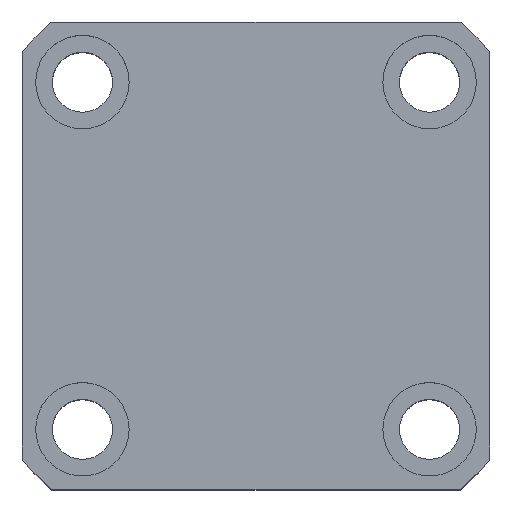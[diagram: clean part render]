
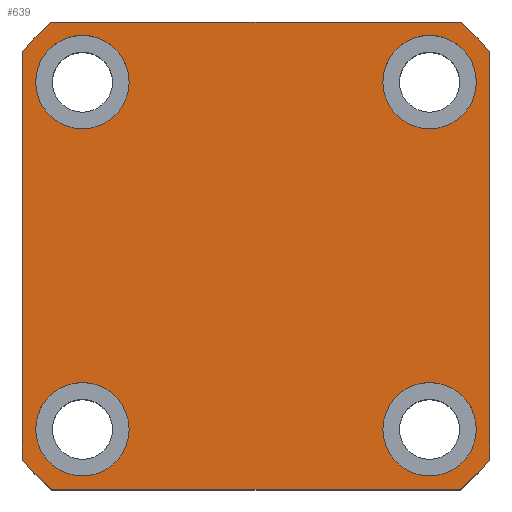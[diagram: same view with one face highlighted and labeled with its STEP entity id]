
A CAD part, top view. The second image highlights one B-rep face of the part: STEP entity #639.
In plain terms, the highlighted planar face has unit normal (0, 0, 1).
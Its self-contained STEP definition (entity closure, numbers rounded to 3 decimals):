
#57 = AXIS2_PLACEMENT_3D ( 'NONE', #3721, #6019, #6193 ) ;
#191 = AXIS2_PLACEMENT_3D ( 'NONE', #7617, #2927, #8409 ) ;
#244 = VERTEX_POINT ( 'NONE', #7078 ) ;
#464 = VERTEX_POINT ( 'NONE', #2637 ) ;
#639 = ADVANCED_FACE ( 'NONE', ( #5208, #9134, #3125, #1049, #7062 ), #2763, .T. ) ;
#849 = CARTESIAN_POINT ( 'NONE',  ( 0., 0., 60. ) ) ;
#882 = EDGE_CURVE ( 'NONE', #1801, #9760, #8388, .T. ) ;
#909 = CARTESIAN_POINT ( 'NONE',  ( -26., 26., 60. ) ) ;
#940 = AXIS2_PLACEMENT_3D ( 'NONE', #3652, #9140, #4441 ) ;
#961 = EDGE_CURVE ( 'NONE', #4296, #3743, #9994, .T. ) ;
#985 = ORIENTED_EDGE ( 'NONE', *, *, #5226, .T. ) ;
#1022 = EDGE_CURVE ( 'NONE', #9328, #3744, #9756, .T. ) ;
#1030 = ORIENTED_EDGE ( 'NONE', *, *, #1022, .T. ) ;
#1049 = FACE_BOUND ( 'NONE', #7470, .T. ) ;
#1147 = EDGE_CURVE ( 'NONE', #2155, #244, #6929, .T. ) ;
#1260 = EDGE_CURVE ( 'NONE', #6778, #5177, #2250, .T. ) ;
#1424 = CIRCLE ( 'NONE', #191, 46.5 ) ;
#1545 = CARTESIAN_POINT ( 'NONE',  ( -35., -30.615, 60. ) ) ;
#1646 = DIRECTION ( 'NONE',  ( 1., 0., 0. ) ) ;
#1658 = AXIS2_PLACEMENT_3D ( 'NONE', #6981, #2271, #7754 ) ;
#1707 = DIRECTION ( 'NONE',  ( 1., 0., 0. ) ) ;
#1717 = CARTESIAN_POINT ( 'NONE',  ( -19., -26., 60. ) ) ;
#1801 = VERTEX_POINT ( 'NONE', #6420 ) ;
#1834 = ORIENTED_EDGE ( 'NONE', *, *, #882, .T. ) ;
#1892 = VECTOR ( 'NONE', #7005, 1000. ) ;
#1929 = CIRCLE ( 'NONE', #5015, 7. ) ;
#1945 = DIRECTION ( 'NONE',  ( 0., 0., 1. ) ) ;
#1969 = CARTESIAN_POINT ( 'NONE',  ( 33., -26., 60. ) ) ;
#1979 = ORIENTED_EDGE ( 'NONE', *, *, #9358, .F. ) ;
#2014 = VERTEX_POINT ( 'NONE', #6739 ) ;
#2155 = VERTEX_POINT ( 'NONE', #1969 ) ;
#2250 = CIRCLE ( 'NONE', #6631, 7. ) ;
#2271 = DIRECTION ( 'NONE',  ( 0., 0., 1. ) ) ;
#2272 = CARTESIAN_POINT ( 'NONE',  ( 30.615, -35., 60. ) ) ;
#2293 = VERTEX_POINT ( 'NONE', #9514 ) ;
#2384 = CARTESIAN_POINT ( 'NONE',  ( -30.615, -35., 60. ) ) ;
#2450 = ORIENTED_EDGE ( 'NONE', *, *, #1147, .F. ) ;
#2637 = CARTESIAN_POINT ( 'NONE',  ( -35., 30.615, 60. ) ) ;
#2679 = ORIENTED_EDGE ( 'NONE', *, *, #3910, .T. ) ;
#2681 = ORIENTED_EDGE ( 'NONE', *, *, #7118, .F. ) ;
#2763 = PLANE ( 'NONE',  #4743 ) ;
#2892 = DIRECTION ( 'NONE',  ( 0., 0., 1. ) ) ;
#2927 = DIRECTION ( 'NONE',  ( 0., 0., 1. ) ) ;
#3085 = CARTESIAN_POINT ( 'NONE',  ( 0., 0., 60. ) ) ;
#3125 = FACE_BOUND ( 'NONE', #9553, .T. ) ;
#3129 = EDGE_LOOP ( 'NONE', ( #6009, #3433 ) ) ;
#3342 = CARTESIAN_POINT ( 'NONE',  ( -33., 26., 60. ) ) ;
#3433 = ORIENTED_EDGE ( 'NONE', *, *, #1260, .F. ) ;
#3434 = ORIENTED_EDGE ( 'NONE', *, *, #8922, .T. ) ;
#3497 = VECTOR ( 'NONE', #6325, 1000. ) ;
#3542 = EDGE_LOOP ( 'NONE', ( #2450, #1979 ) ) ;
#3552 = DIRECTION ( 'NONE',  ( 0., 0., 1. ) ) ;
#3625 = CARTESIAN_POINT ( 'NONE',  ( -35., 35., 60. ) ) ;
#3637 = CARTESIAN_POINT ( 'NONE',  ( 35., 35., 60. ) ) ;
#3652 = CARTESIAN_POINT ( 'NONE',  ( 0., 0., 60. ) ) ;
#3721 = CARTESIAN_POINT ( 'NONE',  ( 0., 0., 60. ) ) ;
#3743 = VERTEX_POINT ( 'NONE', #2272 ) ;
#3744 = VERTEX_POINT ( 'NONE', #7721 ) ;
#3860 = EDGE_CURVE ( 'NONE', #6874, #2293, #8090, .T. ) ;
#3890 = DIRECTION ( 'NONE',  ( 0., 1., 0. ) ) ;
#3910 = EDGE_CURVE ( 'NONE', #3743, #1801, #9698, .T. ) ;
#4150 = CARTESIAN_POINT ( 'NONE',  ( 30.615, 35., 60. ) ) ;
#4181 = DIRECTION ( 'NONE',  ( 0., 0., 1. ) ) ;
#4296 = VERTEX_POINT ( 'NONE', #2384 ) ;
#4441 = DIRECTION ( 'NONE',  ( 1., 0., 0. ) ) ;
#4531 = AXIS2_PLACEMENT_3D ( 'NONE', #9021, #9304, #7749 ) ;
#4543 = ORIENTED_EDGE ( 'NONE', *, *, #6345, .T. ) ;
#4621 = ORIENTED_EDGE ( 'NONE', *, *, #6869, .T. ) ;
#4743 = AXIS2_PLACEMENT_3D ( 'NONE', #3085, #2892, #4985 ) ;
#4778 = VECTOR ( 'NONE', #5990, 1000. ) ;
#4985 = DIRECTION ( 'NONE',  ( 1., 0., 0. ) ) ;
#5015 = AXIS2_PLACEMENT_3D ( 'NONE', #8241, #3552, #9035 ) ;
#5127 = CIRCLE ( 'NONE', #9951, 7. ) ;
#5150 = CIRCLE ( 'NONE', #5622, 7. ) ;
#5177 = VERTEX_POINT ( 'NONE', #1717 ) ;
#5208 = FACE_BOUND ( 'NONE', #3129, .T. ) ;
#5226 = EDGE_CURVE ( 'NONE', #7940, #4296, #9173, .T. ) ;
#5259 = CARTESIAN_POINT ( 'NONE',  ( 19., 26., 60. ) ) ;
#5498 = EDGE_CURVE ( 'NONE', #5177, #6778, #1929, .T. ) ;
#5622 = AXIS2_PLACEMENT_3D ( 'NONE', #909, #6406, #1707 ) ;
#5847 = EDGE_CURVE ( 'NONE', #2293, #6874, #6485, .T. ) ;
#5959 = CARTESIAN_POINT ( 'NONE',  ( -35., 35., 60. ) ) ;
#5990 = DIRECTION ( 'NONE',  ( 0., -1., 0. ) ) ;
#6009 = ORIENTED_EDGE ( 'NONE', *, *, #5498, .F. ) ;
#6019 = DIRECTION ( 'NONE',  ( 0., 0., 1. ) ) ;
#6193 = DIRECTION ( 'NONE',  ( 1., 0., 0. ) ) ;
#6325 = DIRECTION ( 'NONE',  ( -1., 0., 0. ) ) ;
#6345 = EDGE_CURVE ( 'NONE', #3744, #464, #8931, .T. ) ;
#6351 = DIRECTION ( 'NONE',  ( 0., 0., 1. ) ) ;
#6406 = DIRECTION ( 'NONE',  ( 0., 0., 1. ) ) ;
#6420 = CARTESIAN_POINT ( 'NONE',  ( 35., -30.615, 60. ) ) ;
#6485 = CIRCLE ( 'NONE', #1658, 7. ) ;
#6566 = VECTOR ( 'NONE', #3890, 1000. ) ;
#6631 = AXIS2_PLACEMENT_3D ( 'NONE', #7371, #7435, #7472 ) ;
#6644 = CARTESIAN_POINT ( 'NONE',  ( -26., 26., 60. ) ) ;
#6735 = ORIENTED_EDGE ( 'NONE', *, *, #5847, .F. ) ;
#6739 = CARTESIAN_POINT ( 'NONE',  ( -19., 26., 60. ) ) ;
#6778 = VERTEX_POINT ( 'NONE', #9864 ) ;
#6869 = EDGE_CURVE ( 'NONE', #9760, #9328, #1424, .T. ) ;
#6874 = VERTEX_POINT ( 'NONE', #5259 ) ;
#6929 = CIRCLE ( 'NONE', #4531, 7. ) ;
#6981 = CARTESIAN_POINT ( 'NONE',  ( 26., 26., 60. ) ) ;
#7005 = DIRECTION ( 'NONE',  ( 1., 0., 0. ) ) ;
#7062 = FACE_OUTER_BOUND ( 'NONE', #8290, .T. ) ;
#7078 = CARTESIAN_POINT ( 'NONE',  ( 19., -26., 60. ) ) ;
#7114 = ORIENTED_EDGE ( 'NONE', *, *, #3860, .F. ) ;
#7118 = EDGE_CURVE ( 'NONE', #8252, #2014, #5150, .T. ) ;
#7124 = AXIS2_PLACEMENT_3D ( 'NONE', #10029, #7755, #8441 ) ;
#7339 = LINE ( 'NONE', #3625, #4778 ) ;
#7371 = CARTESIAN_POINT ( 'NONE',  ( -26., -26., 60. ) ) ;
#7427 = DIRECTION ( 'NONE',  ( 1., 0., 0. ) ) ;
#7435 = DIRECTION ( 'NONE',  ( 0., 0., 1. ) ) ;
#7470 = EDGE_LOOP ( 'NONE', ( #8704, #2681 ) ) ;
#7472 = DIRECTION ( 'NONE',  ( 1., 0., 0. ) ) ;
#7580 = ORIENTED_EDGE ( 'NONE', *, *, #961, .T. ) ;
#7617 = CARTESIAN_POINT ( 'NONE',  ( 0., 0., 60. ) ) ;
#7721 = CARTESIAN_POINT ( 'NONE',  ( -30.615, 35., 60. ) ) ;
#7749 = DIRECTION ( 'NONE',  ( 1., 0., 0. ) ) ;
#7754 = DIRECTION ( 'NONE',  ( 1., 0., 0. ) ) ;
#7755 = DIRECTION ( 'NONE',  ( 0., 0., 1. ) ) ;
#7940 = VERTEX_POINT ( 'NONE', #1545 ) ;
#8090 = CIRCLE ( 'NONE', #7124, 7. ) ;
#8097 = CARTESIAN_POINT ( 'NONE',  ( -35., -35., 60. ) ) ;
#8241 = CARTESIAN_POINT ( 'NONE',  ( -26., -26., 60. ) ) ;
#8252 = VERTEX_POINT ( 'NONE', #3342 ) ;
#8290 = EDGE_LOOP ( 'NONE', ( #1834, #4621, #1030, #4543, #3434, #985, #7580, #2679 ) ) ;
#8338 = AXIS2_PLACEMENT_3D ( 'NONE', #849, #6351, #1646 ) ;
#8388 = LINE ( 'NONE', #3637, #6566 ) ;
#8409 = DIRECTION ( 'NONE',  ( 1., 0., 0. ) ) ;
#8410 = AXIS2_PLACEMENT_3D ( 'NONE', #6644, #1945, #7427 ) ;
#8441 = DIRECTION ( 'NONE',  ( 1., 0., 0. ) ) ;
#8704 = ORIENTED_EDGE ( 'NONE', *, *, #8800, .F. ) ;
#8800 = EDGE_CURVE ( 'NONE', #2014, #8252, #9441, .T. ) ;
#8881 = CARTESIAN_POINT ( 'NONE',  ( 26., -26., 60. ) ) ;
#8922 = EDGE_CURVE ( 'NONE', #464, #7940, #7339, .T. ) ;
#8931 = CIRCLE ( 'NONE', #940, 46.5 ) ;
#9021 = CARTESIAN_POINT ( 'NONE',  ( 26., -26., 60. ) ) ;
#9035 = DIRECTION ( 'NONE',  ( 1., 0., 0. ) ) ;
#9087 = CARTESIAN_POINT ( 'NONE',  ( 35., 30.615, 60. ) ) ;
#9134 = FACE_BOUND ( 'NONE', #3542, .T. ) ;
#9140 = DIRECTION ( 'NONE',  ( 0., 0., 1. ) ) ;
#9173 = CIRCLE ( 'NONE', #8338, 46.5 ) ;
#9304 = DIRECTION ( 'NONE',  ( 0., 0., 1. ) ) ;
#9328 = VERTEX_POINT ( 'NONE', #4150 ) ;
#9358 = EDGE_CURVE ( 'NONE', #244, #2155, #5127, .T. ) ;
#9441 = CIRCLE ( 'NONE', #8410, 7. ) ;
#9514 = CARTESIAN_POINT ( 'NONE',  ( 33., 26., 60. ) ) ;
#9553 = EDGE_LOOP ( 'NONE', ( #6735, #7114 ) ) ;
#9670 = DIRECTION ( 'NONE',  ( 1., 0., 0. ) ) ;
#9698 = CIRCLE ( 'NONE', #57, 46.5 ) ;
#9756 = LINE ( 'NONE', #5959, #3497 ) ;
#9760 = VERTEX_POINT ( 'NONE', #9087 ) ;
#9864 = CARTESIAN_POINT ( 'NONE',  ( -33., -26., 60. ) ) ;
#9951 = AXIS2_PLACEMENT_3D ( 'NONE', #8881, #4181, #9670 ) ;
#9994 = LINE ( 'NONE', #8097, #1892 ) ;
#10029 = CARTESIAN_POINT ( 'NONE',  ( 26., 26., 60. ) ) ;
